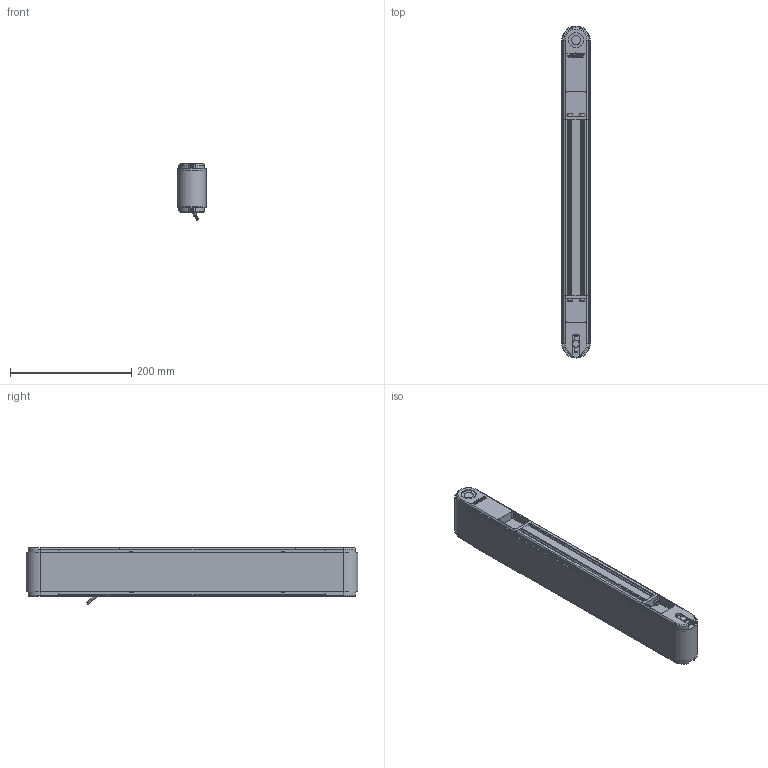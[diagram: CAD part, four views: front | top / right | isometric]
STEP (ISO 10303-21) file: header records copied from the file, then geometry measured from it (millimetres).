
FILE_DESCRIPTION(/* description */ (''),/* implementation_level */ '2;1');
FILE_NAME(/* name */ 'G:\DATEN\CAD\Förderband\Marketing\3D-Modelle (Standard)\FR-40-80\FR-40-80-500-K.stp',/* time_stamp */ '2019-05-08T08:15:01+02:00',/* author */ ('melanie.ochs'),/* organization */ (''),/* preprocessor_version */ 'ST-DEVELOPER v17',/* originating_system */ 'Autodesk Inventor 2019',/* authorisation */ '');
FILE_SCHEMA (('CONFIG_CONTROL_DESIGN'));
Length unit declared in the file: centimetre
Products named in the file (1): FR-40-80-500-K
Bounding box: 46.6 x 546.6 x 92.72 mm (x, y, z)
Volume: 982568.3 mm3; surface area: 397073 mm2
Topology: 1 solids, 25 shells, 1017 faces, 2769 edges, 1848 vertices
Faces by surface type: plane 525, cylinder 279, bspline 122, cone 61, torus 30
Full cylindrical faces by diameter (mm): 1 x6, 4 x6, 4.3 x4, 4.64 x2, 4.917 x1, 5 x11, 5.5 x8, 6 x4, 6.773 x1, 8 x4, 8.3 x4, 8.5 x8, 8.773 x1, 10 x1, 11 x1, 12 x3, 15 x4, 20 x2, 25 x2, 28 x4
Entity records: 34655 total; most frequent: CARTESIAN_POINT 8252, ORIENTED_EDGE 5518, DIRECTION 4984, EDGE_CURVE 2759, VERTEX_POINT 1848, AXIS2_PLACEMENT_3D 1724, LINE 1536, VECTOR 1536
